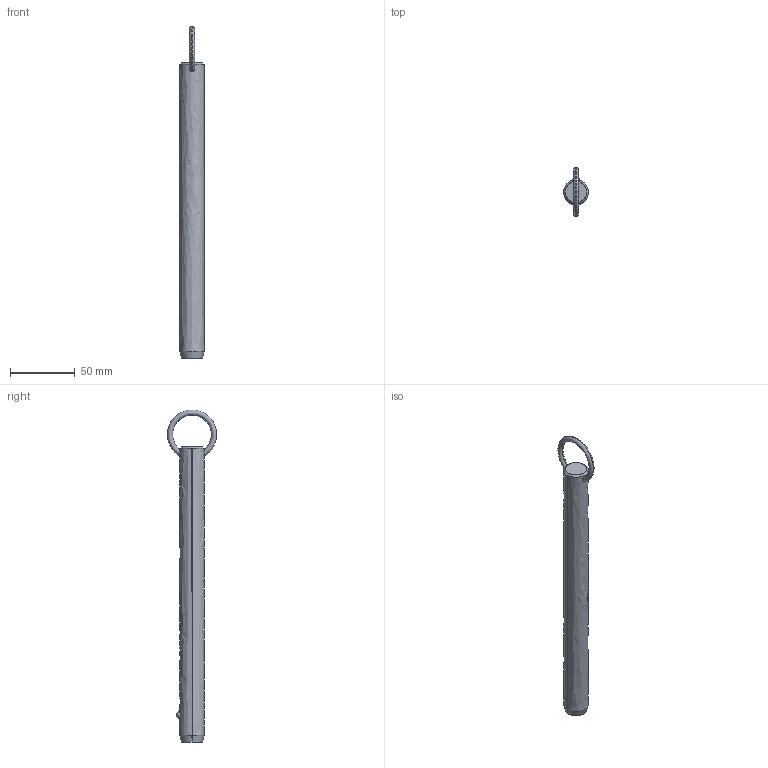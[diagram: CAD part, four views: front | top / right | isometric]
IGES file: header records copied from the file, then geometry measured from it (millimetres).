
Start section: SolidWorks IGES file using analytic representation for surfaces
Global section: file name: C:\Users\liam_\OneDrive\Documents\WORK\Work for WixRoyd\Job Files\J-00019 - Matt Davis CAD Checking\04. CAD Drawings\automotion20190605\P1250.2_v2\P1250.2_v2_20190729_IGES\P1250.075-770.igs; native system: SolidWorks 2017; preprocessor: SolidWorks 2017; author: liam_; date: 190730.000258; units: millimetre
Bounding box: 19 x 38.1 x 257.39 mm (x, y, z)
Surface area: 15189.9 mm2 (no closed solid volume)
Topology: 0 solids, 0 shells, 12 faces, 294 edges, 292 vertices
Faces by surface type: revolution 8, bspline 4
